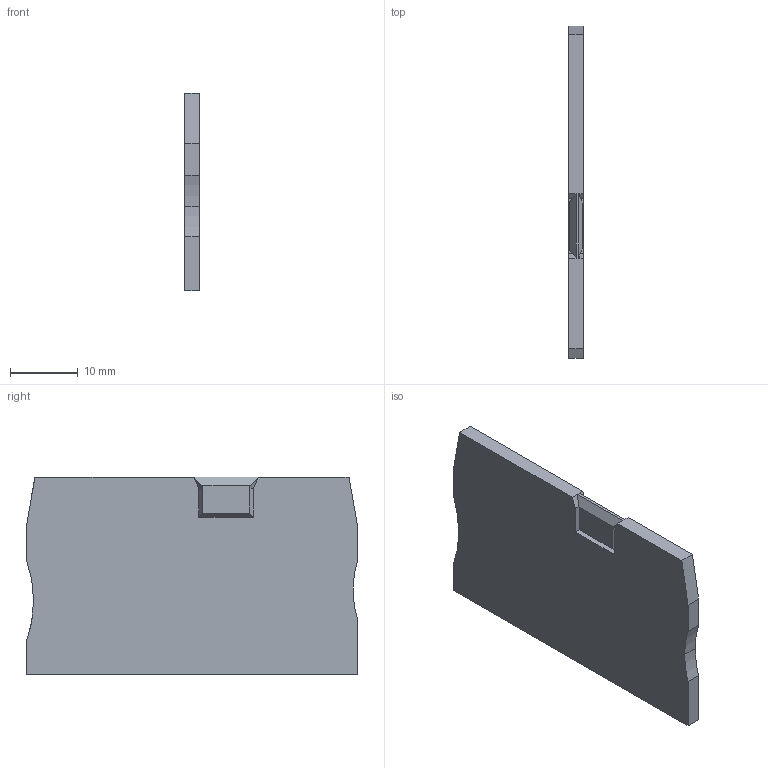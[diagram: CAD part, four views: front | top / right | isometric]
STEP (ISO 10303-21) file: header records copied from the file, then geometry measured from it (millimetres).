
FILE_DESCRIPTION(('TFLEX Exchange Step'),'2;1');
FILE_NAME('14000016_К-КНБ_2,5-2-С.stp', '2025-06-24T11:15:37+03:00',('MVarava'),('Unknown organisation'),'TFLEX Exchange 2023.0','T-FLEX CAD','Unknown authorisation');
FILE_SCHEMA( ('AUTOMOTIVE_DESIGN { 1 0 10303 214 1 1 1 1 }') );
Length unit declared in the file: millimetre
Products named in the file (1): Nodes
Bounding box: 2.2 x 48.8 x 29.1 mm (x, y, z)
Volume: 3035.7 mm3; surface area: 3178.6 mm2
Topology: 1 solids, 1 shells, 259 faces, 741 edges, 491 vertices
Faces by surface type: cylinder 166, plane 93
Entity records: 8625 total; most frequent: CARTESIAN_POINT 1638, DIRECTION 1523, ORIENTED_EDGE 1482, EDGE_CURVE 741, AXIS2_PLACEMENT_3D 590, VERTEX_POINT 491, VECTOR 343, LINE 343
